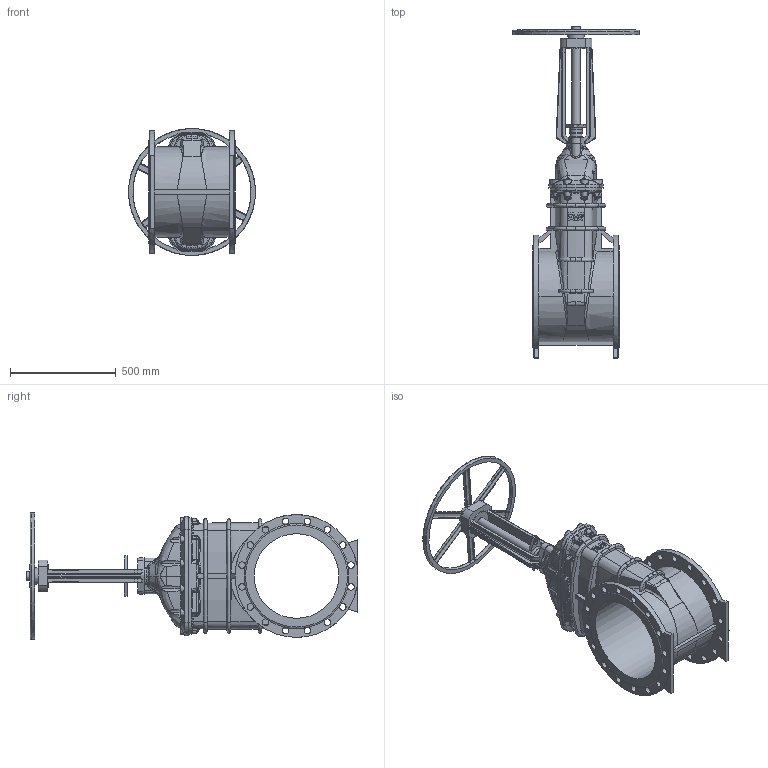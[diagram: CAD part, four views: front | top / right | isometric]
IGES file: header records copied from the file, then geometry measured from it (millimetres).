
Start section: SolidWorks IGES file using analytic representation for surfaces
Global section: file name: \\avksan2\techshare\PBM outline export from Enovia\O_21_34_DN400_41XXXXX close_AA0.igs; native system: SolidWorks 2012; preprocessor: SolidWorks 2012; author: pbm; date: 200212.105329; units: millimetre
Bounding box: 598.51 x 1567 x 598.51 mm (x, y, z)
Surface area: 3172166.2 mm2 (no closed solid volume)
Topology: 0 solids, 0 shells, 1032 faces, 5631 edges, 5563 vertices
Faces by surface type: bspline 528, revolution 504
